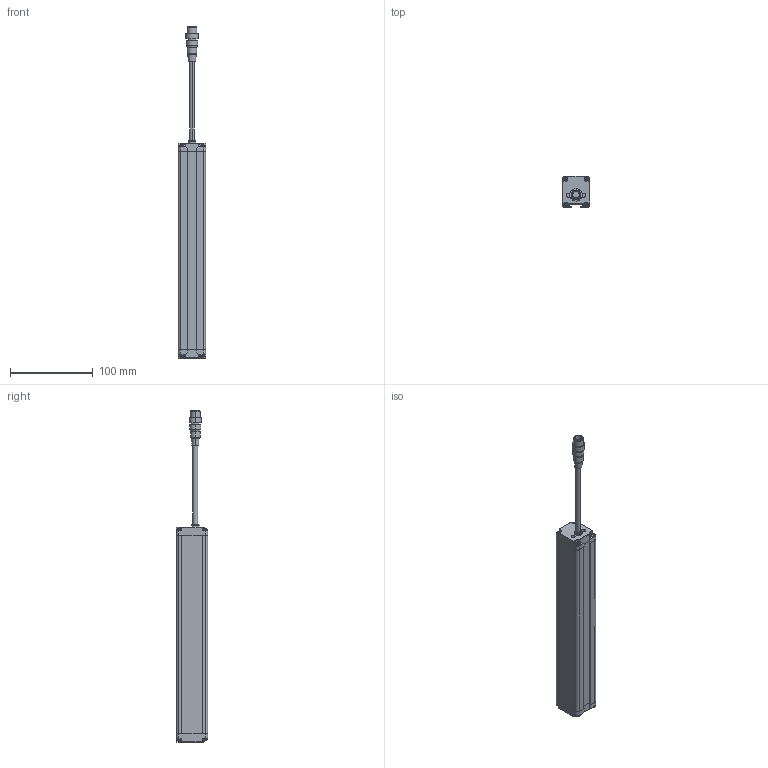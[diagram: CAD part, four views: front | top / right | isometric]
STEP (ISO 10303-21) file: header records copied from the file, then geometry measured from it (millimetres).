
FILE_DESCRIPTION((''),'2;1');
FILE_NAME('PRT0010','2026-03-31T10:12:22',('Administrator'),(''),'CREO PARAMETRIC BY PTC INC, 2016510','CREO PARAMETRIC BY PTC INC, 2016510','');
FILE_SCHEMA(('AUTOMOTIVE_DESIGN { 1 0 10303 214 1 1 1 1 }'));
Length unit declared in the file: millimetre
Products named in the file (1): PRT0010
Bounding box: 33 x 38 x 401.9 mm (x, y, z)
Surface area: 68079.4 mm2 (no closed solid volume)
Topology: 0 solids, 12 shells, 819 faces, 2211 edges, 1419 vertices
Faces by surface type: plane 388, cylinder 235, extrusion 88, sphere 40, torus 36, cone 28, bspline 4
Entity records: 32649 total; most frequent: CARTESIAN_POINT 6186, ORIENTED_EDGE 4334, DIRECTION 4058, EDGE_CURVE 2167, VERTEX_POINT 1419, AXIS2_PLACEMENT_3D 1382, VECTOR 1294, LINE 1206
